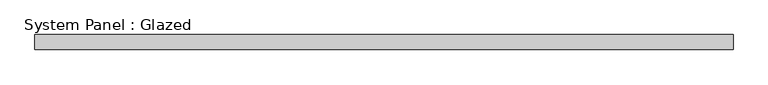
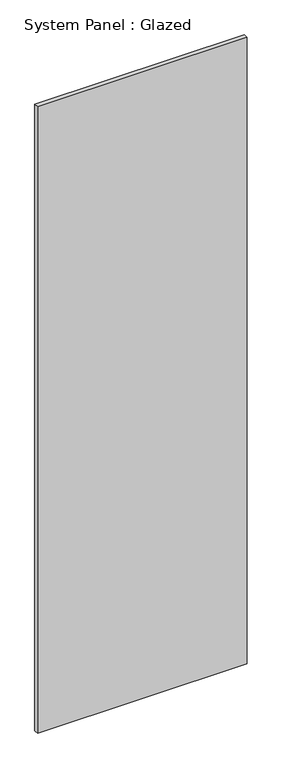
"""IFC4 building model written with IfcOpenShell, lengths in millimetres: plate geometry, System Panel : Glazed."""

from ifc_helpers import new_model, si_unit, origin, origin_with_axes, place, context, project, spatial, polyline, outline, extrude, source, transform, mapped, element, save


def system_panel_glazed_c11227ff(model_context):
    return source(origin(), model_context, "Body", "SweptSolid", [
        extrude(outline(polyline([(593.725, 19.05), (-593.725, 19.05), (-593.725, 44.45), (593.725, 44.45), (593.725, 19.05)])), origin_with_axes(), (0.0, 0.0, 1.0), 3746.5),
    ])


if __name__ == "__main__":
    model = new_model("IFC4")
    model_context = context("Model", 3, world=origin())
    ifc_project = project(units=[si_unit("LENGTHUNIT", "METRE", prefix="MILLI")], contexts=[model_context])
    site = spatial("IfcSite", under=ifc_project)
    building = spatial("IfcBuilding", under=site)
    placement = place(None, origin())
    system_panel_glazed_shape = system_panel_glazed_c11227ff(model_context)
    element("IfcPlate", 1, ObjectType="System Panel : Glazed", at=placement, inside=building, context=model_context, shape_type="MappedRepresentation", body=[
        mapped(system_panel_glazed_shape, transform((0.0, 0.0, 0.0), x_axis=(1.0, 0.0, 0.0), y_axis=(0.0, 1.0, 0.0), z_axis=(0.0, 0.0, 1.0))),
    ])
    save(model, "model.ifc")
